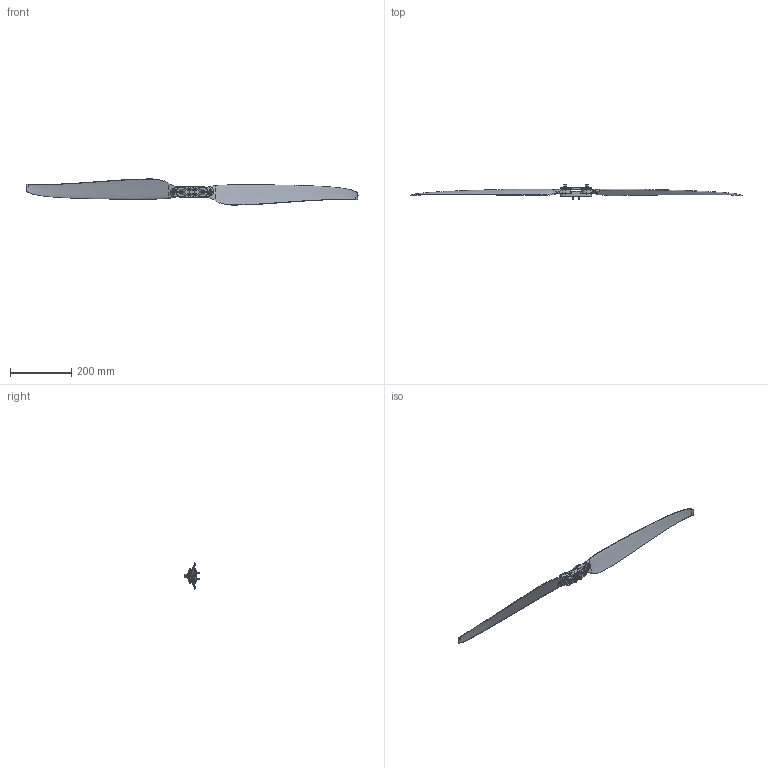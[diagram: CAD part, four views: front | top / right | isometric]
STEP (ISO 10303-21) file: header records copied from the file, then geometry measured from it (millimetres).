
FILE_DESCRIPTION (( 'STEP AP214' ), '1' );
FILE_NAME ('4314蔑珔蔑標-V2.1-CW.STEP', '2025-04-27T10:51:18', ( '' ), ( '' ), 'SwSTEP 2.0', 'SolidWorks 2021', '' );
FILE_SCHEMA (( 'AUTOMOTIVE_DESIGN' ));
Length unit declared in the file: millimetre
Products named in the file (1): 4314蔑珔蔑標-V2.1-CW
Bounding box: 1082.94 x 47.9 x 85.5 mm (x, y, z)
Volume: 310523.7 mm3; surface area: 142587.5 mm2
Topology: 3 solids, 5 shells, 2145 faces, 5365 edges, 3307 vertices
Faces by surface type: cylinder 731, cone 675, plane 669, bspline 50, torus 20
Entity records: 107630 total; most frequent: CARTESIAN_POINT 57064, ORIENTED_EDGE 10710, DIRECTION 10522, EDGE_CURVE 5355, AXIS2_PLACEMENT_3D 3915, VERTEX_POINT 3309, LINE 2692, VECTOR 2692
